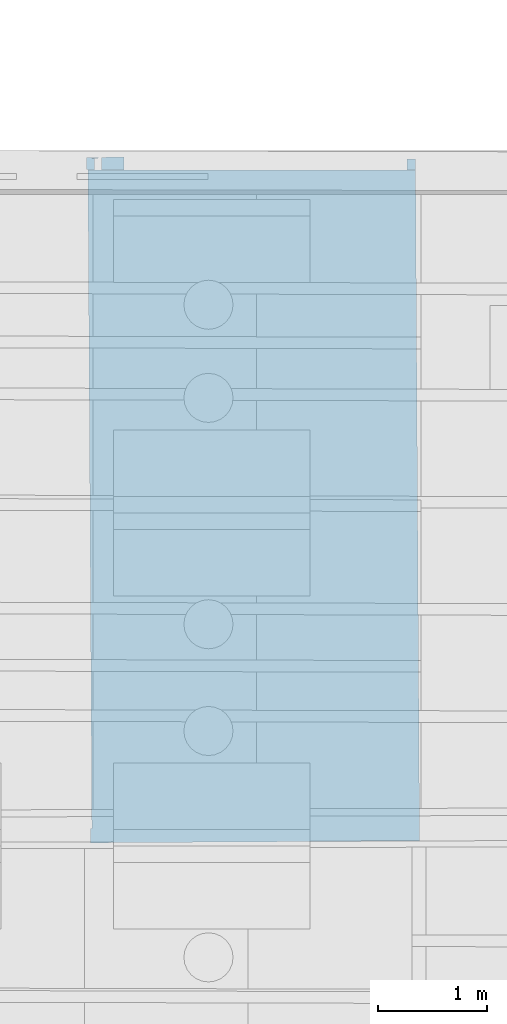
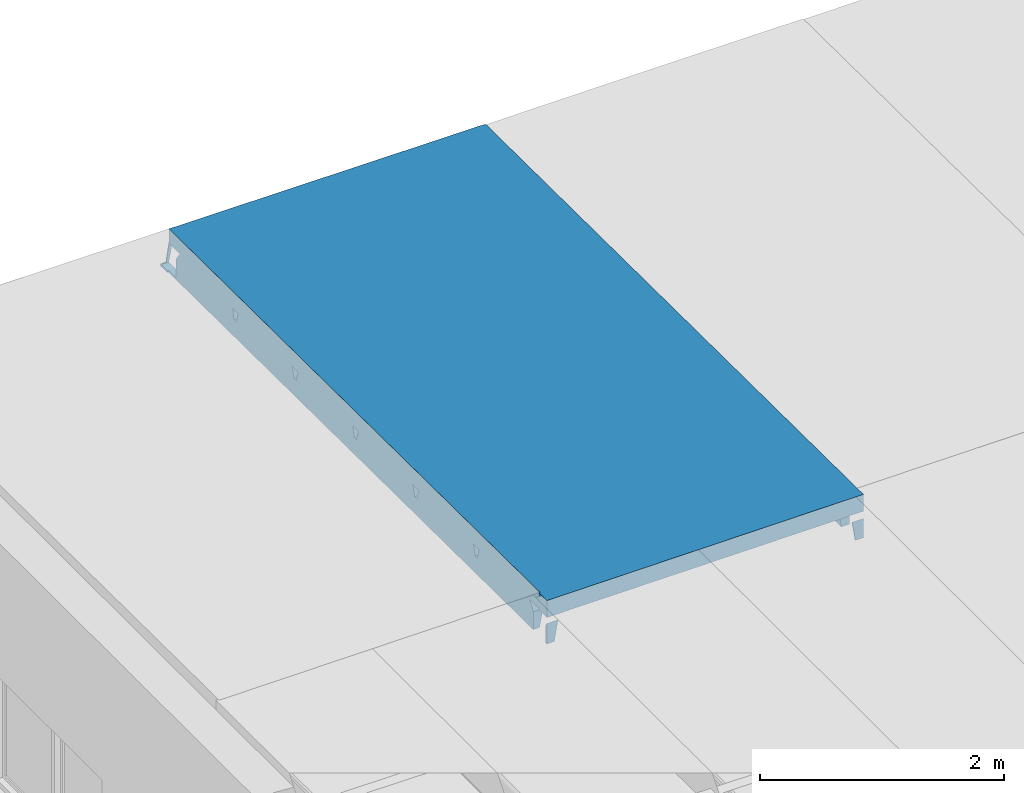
# One storey, part 24 of 153: 1 beam.
"""IFC2X3 building model written with IfcOpenShell, lengths in millimetres."""

from ifc_helpers import new_model, entity, si_unit, converted_unit, derived_unit, money_unit, direction, frame, origin_with_axes, place, context, subcontext, project, spatial, faceted_brep, material, type_object, element, save


model = new_model("IFC2X3")

# Units and contexts
model_context = context("Model", 3, precision=0.01, world=origin_with_axes(), true_north=direction((0.0, 1.0)))
body_context = subcontext(model_context, "Body", "Model", "MODEL_VIEW")
ifc_project = project(units=[si_unit("LENGTHUNIT", "METRE", prefix="MILLI"), si_unit("AREAUNIT", "SQUARE_METRE"), si_unit("VOLUMEUNIT", "CUBIC_METRE"), converted_unit("PLANEANGLEUNIT", "DEGREE", entity("IfcPlaneAngleMeasure", 0.0174532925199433), si_unit("PLANEANGLEUNIT", "RADIAN"), dimensions=[0, 0, 0, 0, 0, 0, 0]), money_unit("EUR"), converted_unit("TIMEUNIT", "Year", entity("IfcTimeMeasure", 31557600.0), si_unit("TIMEUNIT", "SECOND"), dimensions=[0, 0, 1, 0, 0, 0, 0]), si_unit("MASSUNIT", "GRAM", prefix="KILO"), si_unit("THERMODYNAMICTEMPERATUREUNIT", "DEGREE_CELSIUS"), si_unit("LUMINOUSINTENSITYUNIT", "LUMEN"), si_unit("ENERGYUNIT", "JOULE", prefix="MEGA"), derived_unit("THERMALCONDUCTANCEUNIT", [(si_unit("POWERUNIT", "WATT"), 1), (si_unit("LENGTHUNIT", "METRE"), -1), (si_unit("THERMODYNAMICTEMPERATUREUNIT", "KELVIN"), -1)]), derived_unit("SPECIFICHEATCAPACITYUNIT", [(si_unit("ENERGYUNIT", "JOULE"), 1), (si_unit("MASSUNIT", "GRAM", prefix="KILO"), -1), (si_unit("THERMODYNAMICTEMPERATUREUNIT", "KELVIN"), -1)]), derived_unit("MASSDENSITYUNIT", [(si_unit("MASSUNIT", "GRAM", prefix="KILO"), 1), (si_unit("VOLUMEUNIT", "CUBIC_METRE"), -1)])], contexts=[model_context])

# Site, building, storey
site_placement = place(None, frame((0.0, 0.0, 8650.0), z_axis=(0.0, 0.0, 1.0), x_axis=(1.0, 0.0, 0.0)))
site = spatial("IfcSite", under=ifc_project, at=site_placement, Name="43301:001:0844", CompositionType="ELEMENT")
building_placement = place(site_placement, origin_with_axes())
building = spatial("IfcBuilding", under=site, at=building_placement, Name="Kuressaare Ametikooli tuulikute mehaanikute õppekorpus", CompositionType="ELEMENT")
storey_placement = place(building_placement, frame((0.0, 0.0, 4100.0), z_axis=(0.0, 0.0, 1.0), x_axis=(1.0, 0.0, 0.0)))
storey = spatial("IfcBuildingStorey", under=building, at=storey_placement, Name="2.korrus", CompositionType="ELEMENT", Elevation=4100.0)

# Beam
ifc_material = material(Name="GENEERILINE - KONSTRUKTRIOON")
beam_type = type_object("IfcBeamType", Name="Precast Double Tee 4 3012 x 440", PredefinedType="NOTDEFINED")
beam_placement = place(storey_placement, frame((92792.67215728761, 38052.54463005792, 2975.0), z_axis=(0.0, 0.0, 1.0), x_axis=(-0.9999823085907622, -0.005948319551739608, 0.0)))
element("IfcBeam", 1, at=beam_placement, inside=storey, type_object=beam_type, material=ifc_material, context=body_context, shape_type="Brep", body=[
    faceted_brep([(1494.740855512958, 5899.100971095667, -258.4370837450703), (1494.740855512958, 5899.101509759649, -434.9999999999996), (1434.907617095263, 5899.241880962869, -434.9999999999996), (1402.787815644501, 5899.316696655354, -258.4370837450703), (1494.740855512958, 5896.299006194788, -440.0001340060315), (1494.740855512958, 5896.299006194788, -434.9999999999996), (1494.740855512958, 5879.879463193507, -226.2850273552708), (1494.740855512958, 5857.013607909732, -196.6139201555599), (1494.740855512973, 5830.820125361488, -169.8347433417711), (1494.740855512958, 6006.401498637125, -169.8347433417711), (1494.740855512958, 6006.401498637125, 0.0), (1494.740855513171, -23.60027413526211, 0.0), (1494.740855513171, -23.60027413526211, -144.9098486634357), (1494.740855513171, 155.5162758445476, -144.9098486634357), (1494.740855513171, 144.5533657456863, -156.4427065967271), (1494.740855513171, 112.8798423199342, -197.4581574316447), (1494.740855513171, 87.28700694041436, -242.5188171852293), (1494.740855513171, 87.28646918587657, -420.0865585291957), (1494.740855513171, -31.1955784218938, -420.0865585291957), (1494.740855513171, -31.1955784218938, -440.0001340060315), (1494.740855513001, 4930.620840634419, -184.2363394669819), (1494.740855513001, 4926.046036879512, -175.4405967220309), (1494.740855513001, 4917.846952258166, -169.8663369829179), (1494.740855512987, 5024.878680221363, -169.8663369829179), (1494.740855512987, 5016.679528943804, -175.4406717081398), (1494.740855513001, 5012.104745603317, -184.2365347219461), (1494.740855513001, 4991.36401719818, -271.8138152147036), (1494.740855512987, 4951.362530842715, -271.8138152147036), (1494.740855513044, 3947.894756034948, -184.2363394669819), (1494.74085551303, 3943.319952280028, -175.4405967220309), (1494.740855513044, 3935.120867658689, -169.8663369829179), (1494.740855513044, 4042.152595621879, -169.8663369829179), (1494.74085551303, 4033.953444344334, -175.4406717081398), (1494.74085551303, 4029.378661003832, -184.2365347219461), (1494.74085551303, 4008.637932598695, -271.8138152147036), (1494.74085551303, 3968.636446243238, -271.8138152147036), (1494.740855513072, 2967.325843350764, -184.2363394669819), (1494.740855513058, 2962.751039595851, -175.4405967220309), (1494.740855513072, 2954.551954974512, -169.8663369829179), (1494.740855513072, 3061.583682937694, -169.8663369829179), (1494.740855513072, 3053.384531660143, -175.4406717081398), (1494.740855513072, 3048.809748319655, -184.2365347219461), (1494.740855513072, 3028.069019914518, -271.8138152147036), (1494.740855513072, 2988.067533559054, -271.8138152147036), (1494.740855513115, 1986.383049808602, -184.2363394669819), (1494.740855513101, 1981.808246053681, -175.4405967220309), (1494.740855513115, 1973.609161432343, -169.8663369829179), (1494.740855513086, 2080.640889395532, -169.8663369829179), (1494.740855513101, 2072.441738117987, -175.4406717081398), (1494.740855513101, 2067.866954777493, -184.2365347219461), (1494.740855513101, 2047.126226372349, -271.8138152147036), (1494.740855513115, 2007.124740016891, -271.8138152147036), (1494.740855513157, 1013.903768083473, -184.2363394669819), (1494.740855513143, 1009.32896432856, -175.4405967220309), (1494.740855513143, 1001.129879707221, -169.8663369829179), (1494.740855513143, 1108.161607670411, -169.8663369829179), (1494.740855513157, 1099.962456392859, -175.4406717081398), (1494.740855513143, 1095.387673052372, -184.2365347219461), (1494.740855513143, 1074.646944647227, -271.8138152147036), (1494.740855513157, 1034.645458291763, -271.8138152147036), (1434.907617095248, 5896.490329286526, -434.9999999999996), (1435.817226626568, 5896.487420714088, -440.0001340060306), (1435.817226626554, -139.8621729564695, -440.0001340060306), (1431.269276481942, -139.8151808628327, -415.0000000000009), (1431.269276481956, -140.5861952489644, -415.0000000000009), (1396.848486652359, -140.5861952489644, -225.7885242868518), (1399.892011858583, -131.1087331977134, -242.5188171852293), (1432.194608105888, -131.3708071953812, -420.0865585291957), (1432.194608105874, 87.7949539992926, -420.0865585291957), (1399.892011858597, 88.05810350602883, -242.5188171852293), (1394.001504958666, 106.4967725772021, -210.1386333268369), (1394.001504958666, 1020.906879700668, -210.1386333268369), (1405.221270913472, 1035.417193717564, -271.8138152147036), (1405.221270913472, 1075.418680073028, -271.8138152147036), (1394.001504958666, 1090.121797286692, -210.1386333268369), (1394.001504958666, 1993.386161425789, -210.1386333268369), (1405.221270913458, 2007.896475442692, -271.8138152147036), (1405.221270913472, 2047.897961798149, -271.8138152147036), (1394.001504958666, 2062.601079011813, -210.1386333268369), (1394.001504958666, 2974.328954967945, -210.1386333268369), (1405.221270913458, 2988.839268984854, -271.8138152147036), (1405.221270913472, 3028.840755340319, -271.8138152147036), (1394.001504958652, 3043.543872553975, -210.1386333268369), (1394.001504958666, 3954.897867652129, -210.1386333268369), (1405.221270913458, 3969.408181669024, -271.8138152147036), (1405.221270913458, 4009.409668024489, -271.8138152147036), (1394.00150495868, 4024.11278523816, -210.1386333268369), (1394.001504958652, 4937.623952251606, -210.1386333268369), (1405.221270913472, 4952.134266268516, -271.8138152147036), (1405.221270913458, 4992.13575262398, -271.8138152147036), (1394.001504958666, 5006.838869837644, -210.1386333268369), (1394.001504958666, 5867.672683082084, -210.1386333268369), (1396.938809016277, 5880.108910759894, -226.2850273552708), (1389.037136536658, 5857.261593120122, -196.6139201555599), (1342.636896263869, 5832.257869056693, -170.9398142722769), (-1313.04955069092, 5837.407315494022, -169.8347433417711), (1387.903755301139, 5854.24404933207, -193.5261847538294), (1376.104194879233, 5841.372057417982, -180.3380699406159), (1360.269640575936, 5833.681191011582, -172.4372542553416), (1505.817226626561, 6135.894783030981, -169.8347433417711), (1505.817226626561, 6006.401498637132, -169.8347433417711), (-1313.049550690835, 6135.894783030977, -169.8347433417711), (1505.817226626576, 6006.401498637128, 0.0), (-1505.81722662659, -5.751680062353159, 0.0), (1505.817226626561, 6135.894783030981, 0.0), (-1505.817226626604, 6135.894783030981, 0.0), (1368.057157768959, -22.84670568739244, -144.8234995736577), (1368.527498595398, -22.8495034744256, -144.9098486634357), (-1505.817226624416, -5.75168006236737, -144.9098486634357), (1161.448191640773, -21.61770779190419, -144.9098486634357), (1163.800308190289, -21.63169918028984, -144.9098486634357), (-1505.817226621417, 179.9100369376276, -144.9098486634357), (1367.816935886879, -140.5861951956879, -144.9098486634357), (1164.743745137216, -140.5861951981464, -144.9098486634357), (-1505.817226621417, 168.9471268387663, -156.4427065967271), (1387.903755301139, 116.7848030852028, -193.5261847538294), (1389.347021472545, 113.7366669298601, -197.4581574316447), (-1505.817226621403, 137.2736034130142, -197.4581574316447), (-1388.022650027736, 136.3159639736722, -197.4581574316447), (-1377.569867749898, 146.5678945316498, -184.0724353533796), (-1360.128065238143, 154.5860169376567, -173.505793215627), (-1340.070370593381, 157.2665452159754, -169.8234995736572), (1342.636896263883, 134.5947729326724, -170.9398142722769), (1360.269640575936, 133.2950492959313, -172.4372542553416), (1376.104194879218, 127.0650403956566, -180.3380699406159), (1505.817226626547, -131.9693400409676, -420.0865585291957), (1505.817226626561, -31.1955784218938, -420.0865585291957), (1505.81722708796, -31.1955784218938, -440.0001340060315), (1505.817227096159, -140.5861498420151, -440.000134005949), (1376.104194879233, 4929.616039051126, -180.3380699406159), (1366.288840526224, 4927.153403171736, -175.4405967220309), (1379.592022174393, 4931.613522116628, -184.2363394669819), (1342.636896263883, 4920.737178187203, -170.9398142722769), (-1237.124284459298, 4941.39796756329, -169.8663369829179), (1360.269640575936, 4922.787728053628, -172.4372542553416), (-1237.124284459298, 5048.429695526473, -169.8663369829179), (1360.269640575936, 5022.256438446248, -172.4372542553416), (1366.288990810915, 5017.786893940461, -175.4406717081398), (1342.636896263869, 5024.610995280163, -170.9398142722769), (1376.104194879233, 5015.155111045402, -180.3380699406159), (1379.592196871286, 5013.097425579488, -184.2365347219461), (1387.903755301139, 5010.825726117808, -193.5261847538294), (1387.903755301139, 4933.742057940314, -193.5261847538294), (1376.104194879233, 3946.889954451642, -180.3380699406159), (1366.288840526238, 3944.427318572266, -175.4405967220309), (1379.592022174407, 3948.887437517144, -184.2363394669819), (1342.636896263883, 3938.011093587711, -170.9398142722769), (-1237.124284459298, 3958.671882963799, -169.8663369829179), (1360.269640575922, 3940.061643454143, -172.4372542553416), (-1237.124284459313, 4065.703610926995, -169.8663369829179), (1360.269640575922, 4039.530353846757, -172.4372542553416), (1366.288990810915, 4035.060809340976, -175.4406717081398), (1342.636896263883, 4041.884910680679, -170.9398142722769), (1376.104194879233, 4032.429026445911, -180.3380699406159), (1379.592196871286, 4030.371340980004, -184.2365347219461), (1387.903755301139, 4028.099641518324, -193.5261847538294), (1387.903755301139, 3951.01597334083, -193.5261847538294), (1376.104194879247, 2966.321041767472, -180.3380699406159), (1366.288840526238, 2963.858405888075, -175.4405967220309), (1379.592022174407, 2968.318524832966, -184.2363394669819), (1342.636896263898, 2957.442180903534, -170.9398142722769), (-1237.124284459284, 2978.102970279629, -169.8663369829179), (1360.269640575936, 2959.492730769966, -172.4372542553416), (-1237.124284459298, 3085.134698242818, -169.8663369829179), (1360.269640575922, 3058.961441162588, -172.4372542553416), (1366.288990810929, 3054.491896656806, -175.4406717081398), (1342.636896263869, 3061.315997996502, -170.9398142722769), (1376.104194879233, 3051.860113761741, -180.3380699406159), (1379.5921968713, 3049.802428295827, -184.2365347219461), (1387.903755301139, 3047.530728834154, -193.5261847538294), (1387.903755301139, 2970.447060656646, -193.5261847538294), (1376.104194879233, 1985.378248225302, -180.3380699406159), (1366.288840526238, 1982.91561234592, -175.4405967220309), (1379.592022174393, 1987.375731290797, -184.2363394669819), (1342.636896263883, 1976.499387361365, -170.9398142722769), (-1237.124284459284, 1997.160176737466, -169.8663369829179), (1360.269640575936, 1978.549937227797, -172.4372542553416), (-1237.124284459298, 2104.191904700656, -169.8663369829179), (1360.269640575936, 2078.018647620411, -172.4372542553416), (1366.288990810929, 2073.549103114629, -175.4406717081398), (1342.636896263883, 2080.373204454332, -170.9398142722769), (1376.104194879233, 2070.917320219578, -180.3380699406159), (1379.592196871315, 2068.859634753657, -184.2365347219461), (1387.903755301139, 2066.587935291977, -193.5261847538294), (1387.903755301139, 1989.504267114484, -193.5261847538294), (1376.104194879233, 1012.898966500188, -180.3380699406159), (1366.288840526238, 1010.436330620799, -175.4405967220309), (1379.592022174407, 1014.896449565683, -184.2363394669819), (1342.636896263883, 1004.02010563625, -170.9398142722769), (-1237.124284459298, 1024.680895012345, -169.8663369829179), (1360.269640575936, 1006.070655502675, -172.4372542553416), (-1237.124284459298, 1131.712622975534, -169.8663369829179), (1360.269640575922, 1105.539365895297, -172.4372542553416), (1366.288990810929, 1101.069821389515, -175.4406717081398), (1342.636896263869, 1107.893922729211, -170.9398142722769), (1376.104194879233, 1098.43803849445, -180.3380699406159), (1379.5921968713, 1096.380353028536, -184.2365347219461), (1387.903755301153, 1094.108653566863, -193.5261847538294), (1387.903755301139, 1017.024985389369, -193.5261847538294), (1505.817226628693, -140.5861950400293, -415.0000000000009), (1458.108186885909, -140.0927630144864, -415.0001340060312), (1458.105230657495, -140.5861951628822, -415.0000000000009), (1428.405908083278, -140.5861952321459, -226.240231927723), (1431.022039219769, -131.3618122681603, -242.5188171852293), (1458.158813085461, -131.5819048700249, -415.0001340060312), (1505.817226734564, -131.9693554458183, -415.0001340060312), (-1340.070370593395, 6135.894783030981, -169.8234995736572), (-1340.131616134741, 6135.894783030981, -169.8347433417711), (-1505.817226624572, 6135.894783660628, -169.8347433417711), (-1505.817226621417, 5906.140940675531, -434.9999999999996), (-1505.817226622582, 5905.893607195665, -434.9999999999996), (-1505.817226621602, 5905.893607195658, -440.0001340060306), (-1505.81722662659, -109.4382395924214, -440.0001340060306), (-1505.81722662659, -109.4382847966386, -415.0001340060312), (-1505.817226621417, -107.4855463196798, -415.0001340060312), (-1505.817226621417, -107.4855309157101, -420.0865585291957), (-1505.817226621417, 111.6802302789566, -420.0865585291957), (-1505.817226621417, 111.6807680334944, -242.5188171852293), (-1505.817226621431, 5837.859556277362, -169.8347433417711), (-1505.817226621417, 5864.053038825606, -196.6139201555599), (-1505.817226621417, 5886.918894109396, -226.2850273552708), (-1505.817226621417, 5906.140402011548, -258.4370837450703), (-1505.817226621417, 1035.196342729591, -175.4405967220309), (-1505.817226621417, 1039.771146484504, -184.2363394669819), (-1505.817226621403, 1060.512836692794, -271.8138152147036), (-1505.817226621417, 1100.514323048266, -271.8138152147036), (-1505.817226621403, 1121.255051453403, -184.2365347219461), (-1505.817226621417, 1125.82983479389, -175.4406717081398), (-1505.817226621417, 1134.028986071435, -169.8663369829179), (-1505.817226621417, 1026.997258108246, -169.8663369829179), (-1505.817226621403, 2007.675624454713, -175.4405967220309), (-1505.817226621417, 2012.250428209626, -184.2363394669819), (-1505.817226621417, 2032.992118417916, -271.8138152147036), (-1505.817226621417, 2072.99360477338, -271.8138152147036), (-1505.817226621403, 2093.734333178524, -184.2365347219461), (-1505.817226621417, 2098.309116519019, -175.4406717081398), (-1505.817226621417, 2106.508267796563, -169.8663369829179), (-1505.817226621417, 1999.476539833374, -169.8663369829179), (-1505.817226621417, 3013.934911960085, -271.8138152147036), (-1505.817226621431, 3053.936398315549, -271.8138152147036), (-1505.817226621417, 3074.677126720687, -184.2365347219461), (-1505.817226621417, 3079.251910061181, -175.4406717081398), (-1505.817226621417, 3087.451061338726, -169.8663369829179), (-1505.817226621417, 2980.419333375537, -169.8663369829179), (-1505.817226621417, 2988.618417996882, -175.4405967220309), (-1505.817226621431, 2993.193221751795, -184.2363394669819), (-1505.817226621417, 3960.98824605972, -169.8663369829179), (-1505.817226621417, 3969.187330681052, -175.4405967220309), (-1505.817226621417, 3973.762134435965, -184.2363394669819), (-1505.817226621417, 3994.503824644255, -271.8138152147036), (-1505.817226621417, 4034.50531099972, -271.8138152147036), (-1505.817226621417, 4055.246039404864, -184.2365347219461), (-1505.817226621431, 4059.820822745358, -175.4406717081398), (-1505.817226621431, 4068.01997402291, -169.8663369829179), (-1505.817226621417, 4943.714330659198, -169.8663369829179), (-1505.817226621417, 4951.913415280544, -175.4405967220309), (-1505.817226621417, 4956.488219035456, -184.2363394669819), (-1505.817226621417, 4977.229909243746, -271.8138152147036), (-1505.817226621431, 5017.231395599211, -271.8138152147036), (-1505.817226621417, 5037.972124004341, -184.2365347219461), (-1505.817226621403, 5042.546907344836, -175.4406717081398), (-1505.817226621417, 5050.746058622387, -169.8663369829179), (1367.356789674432, -140.5861951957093, -144.8255082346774), (-1399.746208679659, 110.8184380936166, -242.5188171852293), (-1396.144696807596, 123.7901444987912, -219.628309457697), (-1390.121046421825, 134.8067993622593, -200.145341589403), (-1377.569867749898, 1038.580295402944, -184.0724353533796), (-1390.121046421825, 1042.541605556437, -200.145341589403), (-1377.697858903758, 1038.666647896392, -184.2363394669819), (-1363.321744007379, 1033.967909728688, -175.4405967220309), (-1360.128065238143, 1031.094507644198, -173.505793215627), (-1360.128065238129, 3080.84190980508, -173.505793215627), (-1360.128065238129, 3965.085495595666, -173.505793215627), (-1340.303708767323, 3959.561377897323, -169.8663369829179), (-1340.303708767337, 4066.593105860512, -169.8663369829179), (-1360.128065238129, 4061.410822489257, -173.505793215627), (-1360.128065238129, 4947.811580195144, -173.505793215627), (-1340.303708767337, 4942.2874624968, -169.8663369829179), (-1340.303708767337, 5049.31919045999, -169.8663369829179), (-1360.128065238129, 5044.136907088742, -173.505793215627), (-1360.128065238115, 5841.108522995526, -173.505793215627), (-1340.131616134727, 5837.470851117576, -169.8347433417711), (-1340.303708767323, 1025.570389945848, -169.8663369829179), (-1340.303708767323, 1132.602117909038, -169.8663369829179), (-1360.128065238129, 1127.41983453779, -173.505793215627), (-1360.128065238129, 2003.573789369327, -173.505793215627), (-1340.303708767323, 1998.049671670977, -169.8663369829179), (-1340.303708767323, 2105.081399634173, -169.8663369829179), (-1360.128065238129, 2099.899116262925, -173.505793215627), (-1360.128065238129, 2984.516582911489, -173.505793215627), (-1340.303708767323, 2978.992465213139, -169.8663369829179), (-1340.303708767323, 3086.024193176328, -169.8663369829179), (-1430.030520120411, 5905.651271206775, -434.9999999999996), (-1430.030520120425, 5905.963141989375, -434.9999999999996), (-1430.817223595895, 5905.653786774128, -440.0001340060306), (-1430.817223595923, -110.2139291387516, -440.0001340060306), (-1426.883790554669, -110.254655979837, -415.0000000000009), (-1466.763615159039, -109.8421978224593, -415.0001340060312), (-1426.883811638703, -108.1272545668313, -415.0001340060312), (-1427.684091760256, -108.1207330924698, -420.0865585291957), (-1427.684091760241, 111.0450281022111, -420.0865585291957), (-1377.569867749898, 5851.484978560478, -184.0724353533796), (-1387.363393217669, 5863.775141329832, -196.6139201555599), (-1397.192041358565, 5886.664055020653, -226.2850273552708), (-1390.121046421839, 5866.503078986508, -200.145341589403), (-1396.144696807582, 5881.531639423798, -219.628309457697), (-1402.250732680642, 5905.897430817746, -258.4370837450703), (-1396.14469680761, 1047.20784528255, -219.628309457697), (-1404.355380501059, 1059.638148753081, -271.8138152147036), (-1404.355380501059, 1099.639635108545, -271.8138152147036), (-1396.144696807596, 1111.927826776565, -219.628309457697), (-1390.121046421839, 1116.490004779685, -200.145341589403), (-1377.698011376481, 1120.150554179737, -184.2365347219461), (-1377.569867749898, 1120.234798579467, -184.0724353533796), (-1363.321867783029, 1124.601402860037, -175.4406717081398), (-1363.321744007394, 2006.447191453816, -175.4405967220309), (-1377.569867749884, 2011.059577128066, -184.0724353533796), (-1377.697858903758, 2011.14592962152, -184.2363394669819), (-1390.121046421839, 2015.020887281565, -200.145341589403), (-1396.144696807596, 2019.687127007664, -219.628309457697), (-1404.355380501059, 2032.117430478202, -271.8138152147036), (-1404.355380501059, 2072.11891683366, -271.8138152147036), (-1396.144696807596, 2084.407108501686, -219.628309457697), (-1390.121046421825, 2088.969286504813, -200.145341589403), (-1377.698011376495, 2092.629835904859, -184.2365347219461), (-1377.569867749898, 2092.714080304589, -184.0724353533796), (-1363.321867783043, 2097.080684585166, -175.4406717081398), (-1404.355380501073, 3053.061710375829, -271.8138152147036), (-1404.355380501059, 3013.060224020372, -271.8138152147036), (-1396.144696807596, 3065.349902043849, -219.628309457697), (-1390.121046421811, 3069.912080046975, -200.145341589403), (-1377.698011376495, 3073.572629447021, -184.2365347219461), (-1363.321867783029, 3078.023478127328, -175.4406717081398), (-1377.569867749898, 3073.656873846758, -184.0724353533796), (-1363.321744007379, 2987.389984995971, -175.4405967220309), (-1377.697858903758, 2992.088723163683, -184.2363394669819), (-1377.569867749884, 2992.002370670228, -184.0724353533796), (-1390.121046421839, 2995.963680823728, -200.145341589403), (-1396.144696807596, 3000.629920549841, -219.628309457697), (-1363.321744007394, 3967.958897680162, -175.4405967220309), (-1377.569867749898, 3972.571283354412, -184.0724353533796), (-1377.697858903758, 3972.65763584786, -184.2363394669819), (-1404.355380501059, 3993.629136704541, -271.8138152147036), (-1390.121046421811, 3976.532593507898, -200.145341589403), (-1396.144696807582, 3981.198833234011, -219.628309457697), (-1404.355380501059, 4033.630623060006, -271.8138152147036), (-1396.144696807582, 4045.918814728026, -219.628309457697), (-1390.121046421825, 4050.48099273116, -200.145341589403), (-1377.698011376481, 4054.141542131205, -184.2365347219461), (-1363.321867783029, 4058.592390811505, -175.4406717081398), (-1377.569867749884, 4054.225786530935, -184.0724353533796), (-1363.321744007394, 4950.684982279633, -175.4405967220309), (-1377.569867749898, 4955.297367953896, -184.0724353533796), (-1377.697858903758, 4955.383720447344, -184.2363394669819), (-1404.355380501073, 4976.355221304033, -271.8138152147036), (-1390.121046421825, 4959.258678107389, -200.145341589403), (-1396.144696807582, 4963.924917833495, -219.628309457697), (-1404.355380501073, 5016.35670765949, -271.8138152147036), (-1396.144696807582, 5028.64489932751, -219.628309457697), (-1390.121046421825, 5033.207077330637, -200.145341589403), (-1377.698011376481, 5036.867626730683, -184.2365347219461), (-1377.569867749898, 5036.95187113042, -184.0724353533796), (-1363.321867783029, 5041.318475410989, -175.4406717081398)], [[[0, 1, 2, 3]], [[4, 5, 1, 0, 6, 7, 8, 9, 10, 11, 12, 13, 14, 15, 16, 17, 18, 19], [20, 21, 22, 23, 24, 25, 26, 27], [28, 29, 30, 31, 32, 33, 34, 35], [36, 37, 38, 39, 40, 41, 42, 43], [44, 45, 46, 47, 48, 49, 50, 51], [52, 53, 54, 55, 56, 57, 58, 59]], [[5, 60, 2, 1]], [[2, 60, 61, 62, 63, 64, 65, 66, 67, 68, 69, 70, 71, 72, 73, 74, 75, 76, 77, 78, 79, 80, 81, 82, 83, 84, 85, 86, 87, 88, 89, 90, 91, 92, 3]], [[3, 92, 6, 0]], [[4, 61, 60, 5]], [[91, 93, 7, 6, 92]], [[94, 95, 8, 7, 93, 96, 97, 98]], [[99, 100, 9, 8, 95, 101]], [[9, 100, 102, 10]], [[103, 11, 10, 102, 104, 105]], [[106, 107, 12, 11, 103, 108, 109, 110]], [[108, 111, 13, 12, 107, 112, 113, 110, 109]], [[111, 114, 14, 13]], [[115, 116, 15, 14, 114, 117, 118, 119, 120, 121, 122, 123, 124]], [[70, 69, 16, 15, 116]], [[69, 68, 17, 16]], [[125, 126, 18, 17, 68, 67]], [[127, 19, 18, 126]], [[62, 61, 4, 19, 127, 128]], [[129, 130, 21, 20, 131]], [[132, 133, 22, 21, 130, 134]], [[133, 135, 23, 22]], [[136, 137, 24, 23, 135, 138]], [[139, 140, 25, 24, 137]], [[90, 89, 26, 25, 140, 141]], [[89, 88, 27, 26]], [[142, 131, 20, 27, 88, 87]], [[143, 144, 29, 28, 145]], [[146, 147, 30, 29, 144, 148]], [[147, 149, 31, 30]], [[150, 151, 32, 31, 149, 152]], [[153, 154, 33, 32, 151]], [[86, 85, 34, 33, 154, 155]], [[85, 84, 35, 34]], [[156, 145, 28, 35, 84, 83]], [[157, 158, 37, 36, 159]], [[160, 161, 38, 37, 158, 162]], [[161, 163, 39, 38]], [[164, 165, 40, 39, 163, 166]], [[167, 168, 41, 40, 165]], [[82, 81, 42, 41, 168, 169]], [[81, 80, 43, 42]], [[170, 159, 36, 43, 80, 79]], [[171, 172, 45, 44, 173]], [[174, 175, 46, 45, 172, 176]], [[175, 177, 47, 46]], [[178, 179, 48, 47, 177, 180]], [[181, 182, 49, 48, 179]], [[78, 77, 50, 49, 182, 183]], [[77, 76, 51, 50]], [[184, 173, 44, 51, 76, 75]], [[185, 186, 53, 52, 187]], [[188, 189, 54, 53, 186, 190]], [[189, 191, 55, 54]], [[192, 193, 56, 55, 191, 194]], [[195, 196, 57, 56, 193]], [[74, 73, 58, 57, 196, 197]], [[73, 72, 59, 58]], [[198, 187, 52, 59, 72, 71]], [[199, 200, 63, 62, 128]], [[200, 201, 64, 63]], [[201, 202, 65, 64]], [[66, 65, 202, 203]], [[66, 203, 204, 205, 125, 67]], [[116, 115, 198, 71, 70]], [[75, 74, 197, 184]], [[78, 183, 170, 79]], [[82, 169, 156, 83]], [[87, 86, 155, 142]], [[90, 141, 96, 93, 91]], [[180, 177, 175, 174, 194, 191, 189, 188, 122, 121, 206, 101, 95, 94, 138, 135, 133, 132, 152, 149, 147, 146, 166, 163, 161, 160]], [[141, 140, 139, 97, 96]], [[137, 136, 98, 97, 139]], [[136, 138, 94, 98]], [[99, 104, 102, 100]], [[207, 208, 105, 104, 99, 101, 206]], [[209, 210, 211, 212, 213, 214, 215, 216, 217, 117, 114, 111, 108, 103, 105, 208, 218, 219, 220, 221], [222, 223, 224, 225, 226, 227, 228, 229], [230, 231, 232, 233, 234, 235, 236, 237], [238, 239, 240, 241, 242, 243, 244, 245], [246, 247, 248, 249, 250, 251, 252, 253], [254, 255, 256, 257, 258, 259, 260, 261]], [[106, 262, 112, 107]], [[106, 110, 113, 262]], [[112, 262, 113]], [[117, 217, 263, 264, 265, 118]], [[266, 119, 118, 265, 267, 268]], [[266, 269, 270, 120, 119]], [[271, 272, 273, 274, 275, 276, 277, 278, 279, 280, 281, 207, 206, 121, 120, 270, 282, 283, 284, 285, 286, 287, 288, 289, 290, 291]], [[122, 188, 190, 123]], [[123, 190, 186, 185, 124]], [[124, 185, 187, 198, 115]], [[199, 128, 127, 126, 125, 205]], [[151, 150, 134, 130, 129, 153]], [[154, 153, 129, 131, 142, 155]], [[150, 152, 132, 134]], [[148, 144, 143, 167, 165, 164]], [[167, 143, 145, 156, 169, 168]], [[164, 166, 146, 148]], [[179, 178, 162, 158, 157, 181]], [[181, 157, 159, 170, 183, 182]], [[162, 178, 180, 160]], [[193, 192, 176, 172, 171, 195]], [[196, 195, 171, 173, 184, 197]], [[192, 194, 174, 176]], [[205, 204, 200, 199]], [[202, 201, 200, 204, 203]], [[281, 218, 208, 207]], [[292, 210, 209, 293]], [[294, 211, 210, 292]], [[212, 211, 294, 295]], [[296, 297, 213, 212, 295]], [[213, 297, 296, 298, 214]], [[298, 299, 215, 214]], [[300, 216, 215, 299]], [[300, 263, 217, 216]], [[219, 218, 281, 280, 301, 302]], [[303, 220, 219, 302, 304, 305]], [[220, 303, 306, 221]], [[306, 293, 209, 221]], [[223, 222, 269, 266, 268]], [[224, 223, 268, 267, 307, 308]], [[309, 225, 224, 308]], [[226, 225, 309, 310, 311, 312]], [[227, 226, 312, 313, 314]], [[228, 227, 314, 284, 283]], [[282, 229, 228, 283]], [[222, 229, 282, 270, 269]], [[231, 230, 315, 316, 317]], [[232, 231, 317, 318, 319, 320]], [[321, 233, 232, 320]], [[234, 233, 321, 322, 323, 324]], [[235, 234, 324, 325, 326]], [[236, 235, 326, 288, 287]], [[286, 237, 236, 287]], [[230, 237, 286, 285, 315]], [[327, 239, 238, 328]], [[239, 327, 329, 330, 331, 240]], [[332, 241, 240, 331, 333]], [[242, 241, 332, 271, 291]], [[290, 243, 242, 291]], [[334, 244, 243, 290, 289]], [[335, 245, 244, 334, 336]], [[238, 245, 335, 337, 338, 328]], [[247, 246, 273, 272, 339]], [[248, 247, 339, 340, 341]], [[342, 249, 248, 341, 343, 344]], [[345, 250, 249, 342]], [[250, 345, 346, 347, 348, 251]], [[349, 252, 251, 348, 350]], [[253, 252, 349, 275, 274]], [[273, 246, 253, 274]], [[351, 255, 254, 277, 276]], [[256, 255, 351, 352, 353]], [[354, 257, 256, 353, 355, 356]], [[258, 257, 354, 357]], [[258, 357, 358, 359, 360, 259]], [[260, 259, 360, 361, 362]], [[261, 260, 362, 279, 278]], [[277, 254, 261, 278]], [[294, 292, 293, 306, 303, 305, 358, 357, 354, 356, 346, 345, 342, 344, 329, 327, 328, 338, 322, 321, 320, 319, 310, 309, 308, 307, 264, 263, 300, 299, 298, 296, 295]], [[265, 264, 307, 267]], [[339, 272, 271, 332, 333, 340]], [[275, 349, 350, 352, 351, 276]], [[301, 280, 279, 362, 361]], [[313, 316, 315, 285, 284, 314]], [[334, 289, 288, 326, 325, 336]], [[359, 304, 302, 301, 361, 360]], [[304, 359, 358, 305]], [[318, 311, 310, 319]], [[312, 311, 318, 317, 316, 313]], [[337, 323, 322, 338]], [[337, 335, 336, 325, 324, 323]], [[330, 329, 344, 343]], [[331, 330, 343, 341, 340, 333]], [[347, 346, 356, 355]], [[348, 347, 355, 353, 352, 350]]]),
    faceted_brep([(1505.817226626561, 6135.894783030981, -434.9999999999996), (1505.817226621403, 6126.264764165, -434.9999999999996), (1434.90761709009, 6126.491505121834, -434.9999999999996), (1434.907617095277, 6135.894783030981, -434.9999999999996), (1505.817226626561, 6118.235184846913, -258.4370837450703), (1505.817226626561, 6118.23464618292, -434.9999999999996), (1505.817226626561, 6135.894783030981, -228.8976532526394), (1434.907617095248, 6118.40100300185, -434.9999999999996), (1402.787815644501, 6118.476896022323, -258.4370837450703), (1397.491422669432, 6135.894783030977, -229.3227509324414)], [[[0, 1, 2, 3]], [[4, 5, 1, 0, 6]], [[5, 7, 2, 1]], [[3, 2, 7, 8, 9]], [[3, 9, 6, 0]], [[8, 7, 5, 4]], [[6, 9, 8, 4]]]),
    faceted_brep([(-1430.030520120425, 6135.894783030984, -434.9999999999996), (-1430.03052012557, 6135.652447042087, -434.9999999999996), (-1505.81722662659, 6135.894783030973, -434.9999999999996), (-1402.250732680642, 6125.057630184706, -258.4370837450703), (-1430.030520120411, 6125.122264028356, -434.9999999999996), (-1399.396862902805, 6135.894783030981, -240.2984434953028), (-1505.817226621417, 6125.300062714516, -434.9999999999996), (-1505.817226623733, 6135.894783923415, -240.7160622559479), (-1505.817226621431, 6125.300601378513, -258.4370837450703)], [[[0, 1, 2]], [[3, 4, 1, 0, 5]], [[4, 6, 2, 1]], [[2, 7, 5, 0]], [[8, 6, 4, 3]], [[8, 3, 5, 7]], [[7, 2, 6, 8]]]),
])

save(model, "model.ifc")
